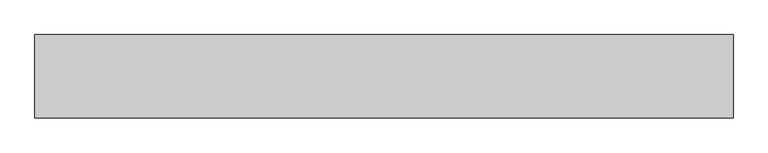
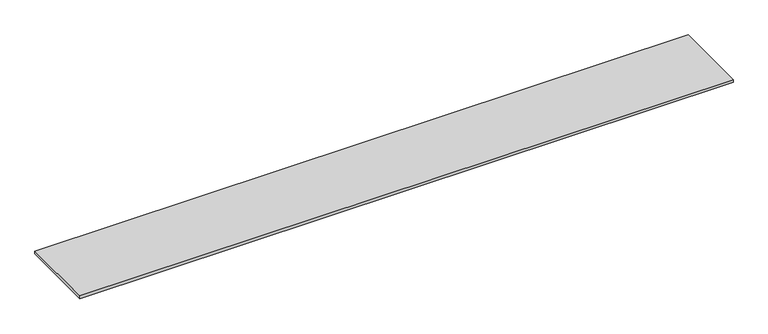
"""IFC4 building model written with IfcOpenShell, lengths in millimetres: furniture geometry, Prateleira B3 : Prateleira B3."""

from ifc_helpers import new_model, si_unit, frame, origin, place, context, project, spatial, polyline, outline, extrude, source, transform, mapped, element, save


def furniture_564652e5(model_context):
    return source(origin(), model_context, "Body", "SweptSolid", [
        extrude(outline(polyline([(1277.6165906, -1582.0637549), (-3242.3834094, -1582.0637549), (-3242.3834094, -1042.0637549), (1277.6165906, -1042.0637549), (1277.6165906, -1582.0637549)])), frame((0.0, 0.0, 500.0), z_axis=(0.0, 0.0, 1.0), x_axis=(1.0, 0.0, 0.0)), (0.0, 0.0, 1.0), 20.0),
    ])


if __name__ == "__main__":
    model = new_model("IFC4")
    model_context = context("Model", 3, world=origin())
    ifc_project = project(units=[si_unit("LENGTHUNIT", "METRE", prefix="MILLI")], contexts=[model_context])
    site = spatial("IfcSite", under=ifc_project)
    building = spatial("IfcBuilding", under=site)
    placement = place(None, origin())
    furniture_shape = furniture_564652e5(model_context)
    element("IfcFurniture", 1, ObjectType="Prateleira B3 : Prateleira B3", at=placement, inside=building, context=model_context, shape_type="MappedRepresentation", body=[
        mapped(furniture_shape, transform((0.0, 0.0, 0.0), x_axis=(1.0, 0.0, 0.0), y_axis=(0.0, 1.0, 0.0), z_axis=(0.0, 0.0, 1.0))),
    ])
    save(model, "model.ifc")
